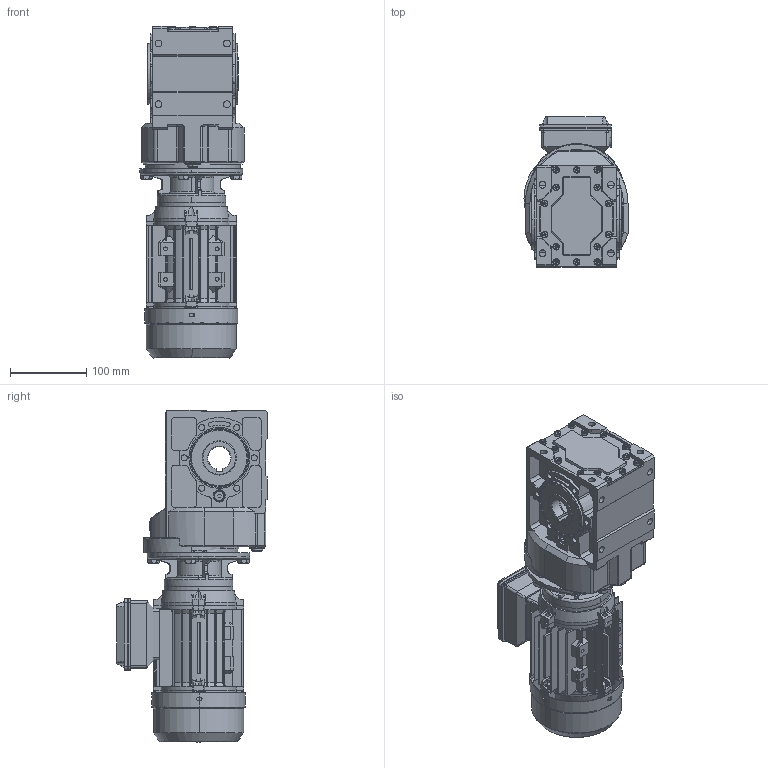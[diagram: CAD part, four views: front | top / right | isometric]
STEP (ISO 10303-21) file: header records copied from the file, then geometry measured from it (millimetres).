
FILE_DESCRIPTION (( 'STEP AP203' ), '1' );
FILE_NAME ('KV_103_0_MX3-63.STEP', '2018-11-21T13:06:51', ( '' ), ( '' ), 'SwSTEP 2.0', 'SolidWorks 2012', '' );
FILE_SCHEMA (( 'CONFIG_CONTROL_DESIGN' ));
Length unit declared in the file: millimetre
Products named in the file (12): L黤terfl黦el_MS63; KV_103_0_MX3-63; Klemmenkastendeckel_MS63; MX63_B14; B-Lagerschild_MS63; Lüfterhaube_MS63; Klemmnkastenunterteil_MS63; B14-Flansch_MS63; ML115A_Varsayìlan; 1363B14_Varsayìlan; Gehäuse_MS63; K103_Varsayìlan
Assembly tree (11 placements, depth 3):
  KV_103_0_MX3-63
    K103_Varsayìlan
    1363B14_Varsayìlan
    ML115A_Varsayìlan
    MX63_B14
      Gehäuse_MS63
      B14-Flansch_MS63
      B-Lagerschild_MS63
      Lüfterhaube_MS63
      Klemmnkastenunterteil_MS63
      Klemmenkastendeckel_MS63
      L黤terfl黦el_MS63
Bounding box: 136.74 x 197.65 x 436.5 mm (x, y, z)
Volume: 3113055.7 mm3; surface area: 636485.3 mm2
Topology: 10 solids, 10 shells, 2461 faces, 6556 edges, 4204 vertices
Faces by surface type: plane 1278, cylinder 793, cone 231, bspline 109, torus 44, sphere 6
Entity records: 86779 total; most frequent: CARTESIAN_POINT 24344, ORIENTED_EDGE 13052, DIRECTION 12513, EDGE_CURVE 6526, AXIS2_PLACEMENT_3D 4415, VERTEX_POINT 4204, LINE 3683, VECTOR 3683
